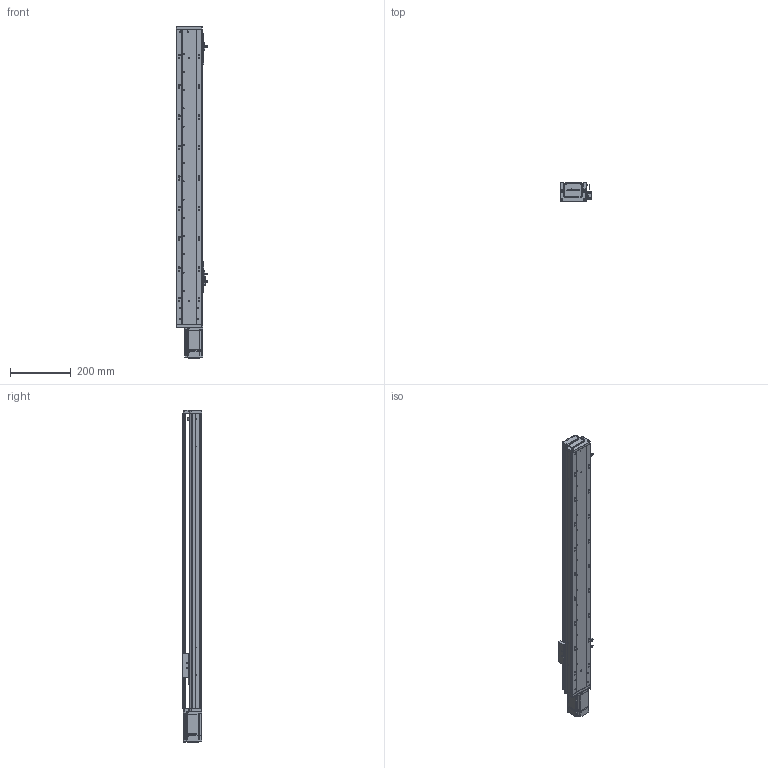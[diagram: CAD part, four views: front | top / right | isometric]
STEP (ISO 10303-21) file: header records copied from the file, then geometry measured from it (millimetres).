
FILE_DESCRIPTION (( 'STEP AP203' ), '1' );
FILE_NAME ('RY80-L1620-300-MK.SLDASM_750.step', '2021-02-20T02:33:37', ( '' ), ( '' ), 'SwSTEP 2.0', 'SolidWorks 2012', '' );
FILE_SCHEMA (( 'CONFIG_CONTROL_DESIGN' ));
Length unit declared in the file: millimetre
Products named in the file (14): RY80-L1620-300-MK.SLDASM_750; 滅袉蝶18-24; RY80前盖板(100W电机 PCD46 M4); RY80俋离覜茼え; RY80綴裔啣; 覜茼ん672; 672嫖萇羲壽假蚾釱; 侂狟200W萇儂; 滅袉蝶18-10; RY80前盖板(200W电机)M4; 1; RY80-300-MK倰第奻裔啣_750; RY80臏賑輸; RY80-300-MK倰第菁釱_750
Assembly tree (16 placements, depth 3):
  RY80-L1620-300-MK.SLDASM_750
    RY80-300-MK倰第菁釱_750
    RY80臏賑輸
    RY80-300-MK倰第奻裔啣_750
    RY80前盖板(200W电机)M4
    侂狟200W萇儂
      1
    滅袉蝶18-10
    672嫖萇羲壽假蚾釱  x2
    覜茼ん672  x3
    RY80俋离覜茼え
    滅袉蝶18-24
    RY80綴裔啣
    RY80前盖板(100W电机 PCD46 M4)
Bounding box: 103.7 x 65 x 1092 mm (x, y, z)
Volume: 1826495.8 mm3; surface area: 699636.7 mm2
Topology: 15 solids, 15 shells, 2132 faces, 5910 edges, 3849 vertices
Faces by surface type: plane 1133, cylinder 814, cone 131, bspline 54
Entity records: 68513 total; most frequent: CARTESIAN_POINT 17917, ORIENTED_EDGE 10560, DIRECTION 9739, EDGE_CURVE 5280, VERTEX_POINT 3465, AXIS2_PLACEMENT_3D 3293, VECTOR 3153, LINE 3153
